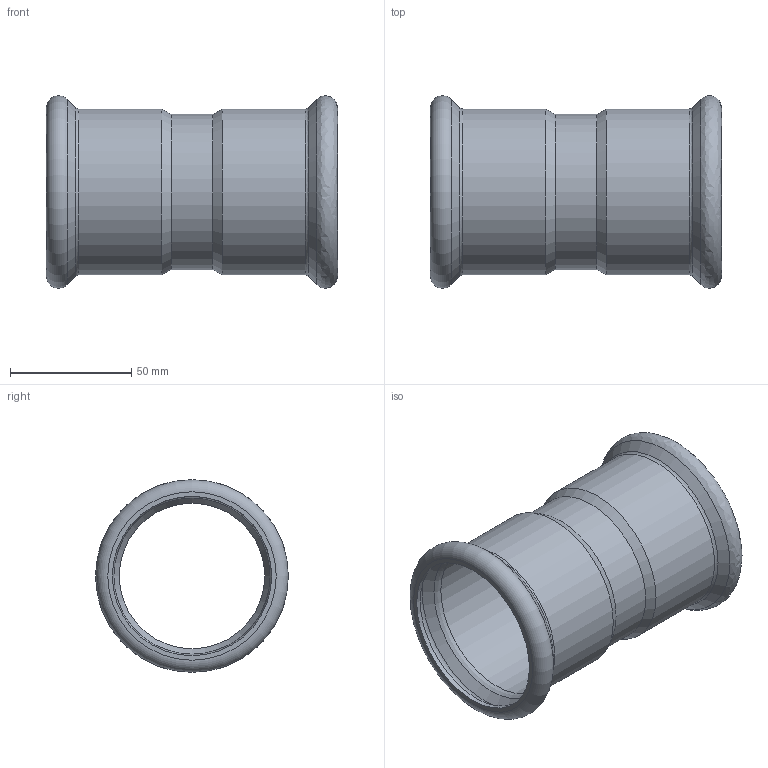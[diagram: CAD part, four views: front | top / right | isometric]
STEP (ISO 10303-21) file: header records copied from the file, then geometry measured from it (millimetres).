
FILE_DESCRIPTION((''),'2;1');
FILE_NAME('G:\Nirosan-Schmiedefeld\Technics\CAD\Bauteile VA\064\6927064(0).stp','2009-05-08T09:16:28',('herberg'),(''),'Autodesk Inventor 2009','Autodesk Inventor 2009','');
FILE_SCHEMA(('AUTOMOTIVE_DESIGN { 1 0 10303 214 1 1 1 1 }'));
Length unit declared in the file: millimetre
Products named in the file (1): 6927064(0)
Bounding box: 120 x 79.4 x 79.4 mm (x, y, z)
Volume: 55576.5 mm3; surface area: 56455 mm2
Topology: 1 solids, 1 shells, 28 faces, 54 edges, 30 vertices
Faces by surface type: bspline 15, cylinder 5, cone 4, plane 2, torus 2
Full cylindrical faces by diameter (mm): 60 x1, 64 x1, 64.4 x1, 65.7 x1, 68.4 x1
Entity records: 961 total; most frequent: CARTESIAN_POINT 510, DIRECTION 84, ORIENTED_EDGE 56, EDGE_LOOP 56, AXIS2_PLACEMENT_3D 42, VERTEX_POINT 28, CIRCLE 28, EDGE_CURVE 28
